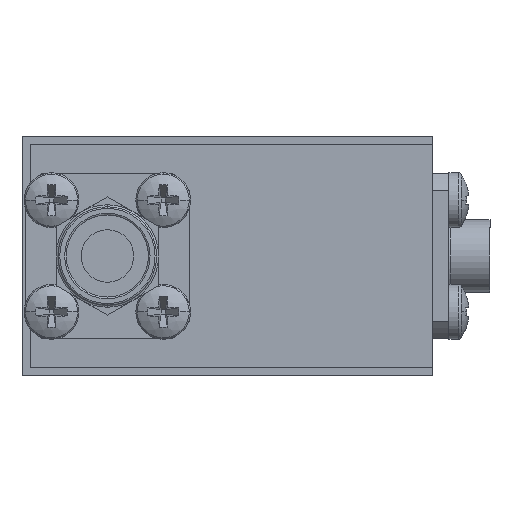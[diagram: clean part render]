
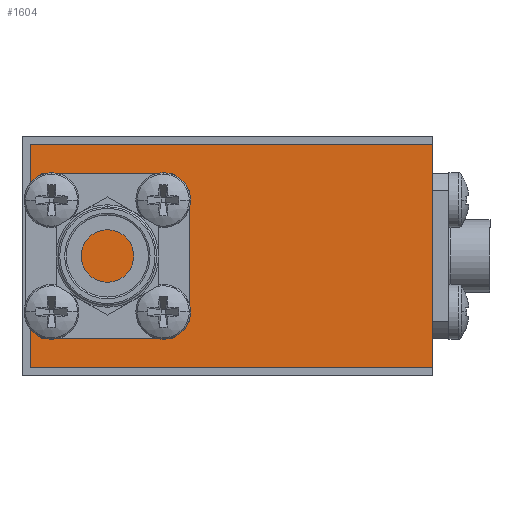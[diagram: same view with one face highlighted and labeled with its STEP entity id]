
A CAD part, left-side view. The second image highlights one B-rep face of the part: STEP entity #1604.
In plain terms, the highlighted planar face has unit normal (-1, 0, 0).
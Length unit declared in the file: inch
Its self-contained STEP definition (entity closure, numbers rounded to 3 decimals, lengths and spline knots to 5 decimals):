
#157 = CARTESIAN_POINT ( 'NONE',  ( -0.46, 0.74469, 0.34 ) ) ;
#197 = CARTESIAN_POINT ( 'NONE',  ( -0.46, -0.48031, 0.34 ) ) ;
#367 = ORIENTED_EDGE ( 'NONE', *, *, #2818, .T. ) ;
#480 = VECTOR ( 'NONE', #2577, 39.37008 ) ;
#722 = VECTOR ( 'NONE', #899, 39.37008 ) ;
#839 = LINE ( 'NONE', #197, #2959 ) ;
#899 = DIRECTION ( 'NONE',  ( 0., -1., 0. ) ) ;
#1074 = EDGE_CURVE ( 'NONE', #1282, #2461, #2133, .T. ) ;
#1181 = AXIS2_PLACEMENT_3D ( 'NONE', #157, #1472, #2817 ) ;
#1216 = CARTESIAN_POINT ( 'NONE',  ( -0.46, 0.74469, 0.34 ) ) ;
#1222 = ORIENTED_EDGE ( 'NONE', *, *, #3013, .T. ) ;
#1282 = VERTEX_POINT ( 'NONE', #1970 ) ;
#1472 = DIRECTION ( 'NONE',  ( 1., 0., 0. ) ) ;
#1575 = FACE_OUTER_BOUND ( 'NONE', #3304, .T. ) ;
#1589 = CARTESIAN_POINT ( 'NONE',  ( -0.46, 0.74469, 0.34 ) ) ;
#1604 = ADVANCED_FACE ( 'NONE', ( #1575 ), #3474, .F. ) ;
#1616 = VERTEX_POINT ( 'NONE', #4137 ) ;
#1792 = LINE ( 'NONE', #1589, #2735 ) ;
#1864 = EDGE_CURVE ( 'NONE', #2461, #3155, #839, .T. ) ;
#1886 = CARTESIAN_POINT ( 'NONE',  ( -0.46, 0.74469, -0.34 ) ) ;
#1970 = CARTESIAN_POINT ( 'NONE',  ( -0.46, 0.74469, 0.34 ) ) ;
#1977 = ORIENTED_EDGE ( 'NONE', *, *, #1864, .F. ) ;
#2133 = LINE ( 'NONE', #1216, #480 ) ;
#2377 = ORIENTED_EDGE ( 'NONE', *, *, #1074, .F. ) ;
#2461 = VERTEX_POINT ( 'NONE', #3059 ) ;
#2560 = DIRECTION ( 'NONE',  ( 0., 0., -1. ) ) ;
#2577 = DIRECTION ( 'NONE',  ( 0., -1., 0. ) ) ;
#2632 = DIRECTION ( 'NONE',  ( 0., 0., -1. ) ) ;
#2735 = VECTOR ( 'NONE', #2632, 39.37008 ) ;
#2817 = DIRECTION ( 'NONE',  ( 0., 1., 0. ) ) ;
#2818 = EDGE_CURVE ( 'NONE', #1616, #3155, #2997, .T. ) ;
#2959 = VECTOR ( 'NONE', #2560, 39.37008 ) ;
#2997 = LINE ( 'NONE', #1886, #722 ) ;
#3013 = EDGE_CURVE ( 'NONE', #1282, #1616, #1792, .T. ) ;
#3059 = CARTESIAN_POINT ( 'NONE',  ( -0.46, -0.48031, 0.34 ) ) ;
#3123 = CARTESIAN_POINT ( 'NONE',  ( -0.46, -0.48031, -0.34 ) ) ;
#3155 = VERTEX_POINT ( 'NONE', #3123 ) ;
#3304 = EDGE_LOOP ( 'NONE', ( #367, #1977, #2377, #1222 ) ) ;
#3474 = PLANE ( 'NONE',  #1181 ) ;
#4137 = CARTESIAN_POINT ( 'NONE',  ( -0.46, 0.74469, -0.34 ) ) ;
